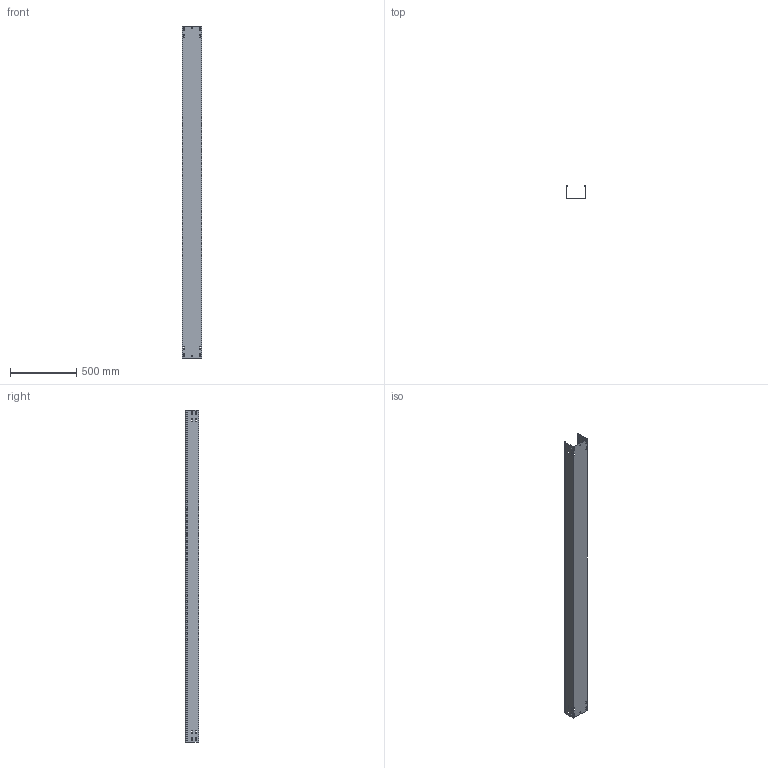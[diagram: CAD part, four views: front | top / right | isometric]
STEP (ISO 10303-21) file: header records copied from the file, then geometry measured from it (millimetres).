
FILE_DESCRIPTION (( 'STEP AP203' ), '1' );
FILE_NAME ('CLN10-100-150-200-D25 Ëîòîê íåïåðôîðèðîâàííûé ESCA 100õ150õ2500-2,0 IEK.STEP', '2021-10-04T11:15:28', ( '' ), ( '' ), 'SwSTEP 2.0', 'SolidWorks 2017', '' );
FILE_SCHEMA (( 'CONFIG_CONTROL_DESIGN' ));
Length unit declared in the file: millimetre
Products named in the file (1): CLN10-100-150-200-D25 Ëîòîê íåïåðôîðèðîâàííûé ESCA 100õ150õ2500-2,0 IEK
Bounding box: 150 x 99.97 x 2500 mm (x, y, z)
Volume: 1959707.3 mm3; surface area: 1796465.1 mm2
Topology: 1 solids, 1 shells, 172 faces, 510 edges, 340 vertices
Faces by surface type: plane 92, cylinder 80
Entity records: 5975 total; most frequent: CARTESIAN_POINT 1023, ORIENTED_EDGE 1020, DIRECTION 1016, EDGE_CURVE 510, LINE 350, VECTOR 350, VERTEX_POINT 340, AXIS2_PLACEMENT_3D 333
